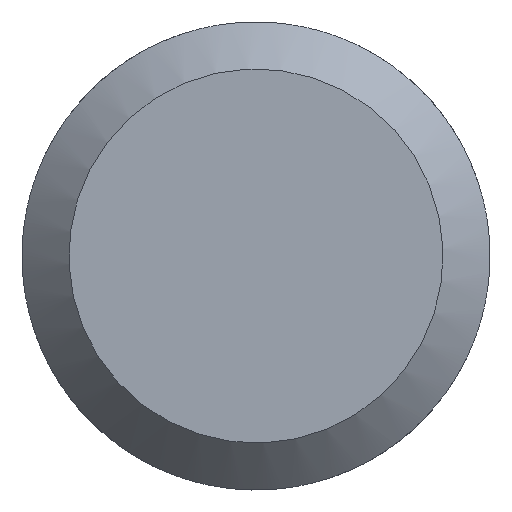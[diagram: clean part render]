
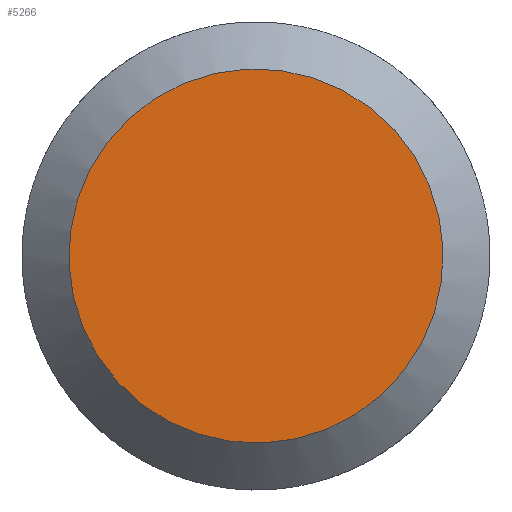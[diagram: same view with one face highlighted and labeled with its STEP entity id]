
A CAD part, left-side view. The second image highlights one B-rep face of the part: STEP entity #5266.
In plain terms, the highlighted planar face has unit normal (-1, 0, 0).
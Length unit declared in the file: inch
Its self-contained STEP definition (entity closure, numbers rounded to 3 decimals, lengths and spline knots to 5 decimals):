
#1086=FACE_OUTER_BOUND($,#1421,.T.);
#1421=EDGE_LOOP($,(#3358));
#1855=CIRCLE($,#5710,0.15739);
#2076=VERTEX_POINT($,#7991);
#2505=EDGE_CURVE($,#2076,#2076,#1855,.T.);
#3358=ORIENTED_EDGE($,*,*,#2505,.F.);
#4618=PLANE($,#5815);
#5266=ADVANCED_FACE($,(#1086),#4618,.F.);
#5710=AXIS2_PLACEMENT_3D($,#7992,#6384,#6385);
#5815=AXIS2_PLACEMENT_3D($,#8201,#6594,#6595);
#6384=DIRECTION('center_axis',(1.,0.,0.));
#6385=DIRECTION('ref_axis',(0.,0.79,0.614));
#6594=DIRECTION('center_axis',(1.,0.,0.));
#6595=DIRECTION('ref_axis',(0.,0.79,0.614));
#7991=CARTESIAN_POINT('',(1.07068,0.10552,-0.09659));
#7992=CARTESIAN_POINT('Origin',(1.07068,0.22979,0.));
#8201=CARTESIAN_POINT('Origin',(1.07068,0.22979,0.));
